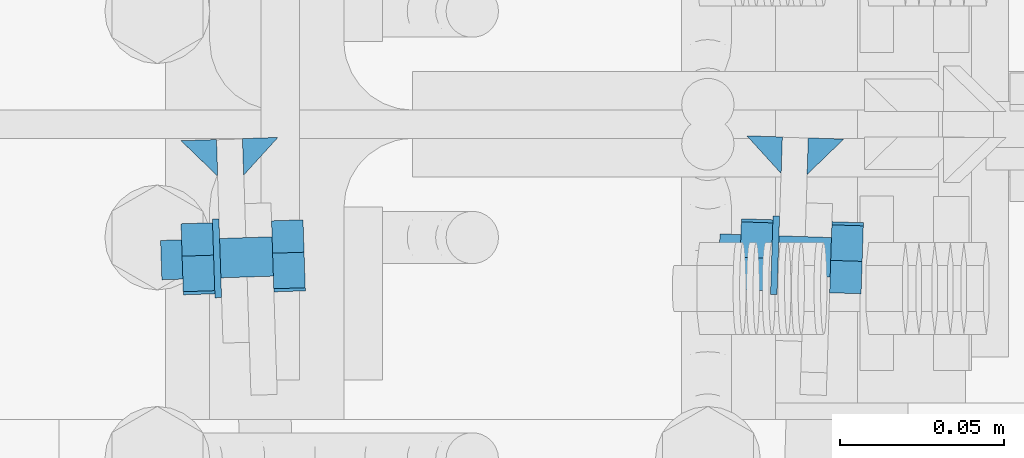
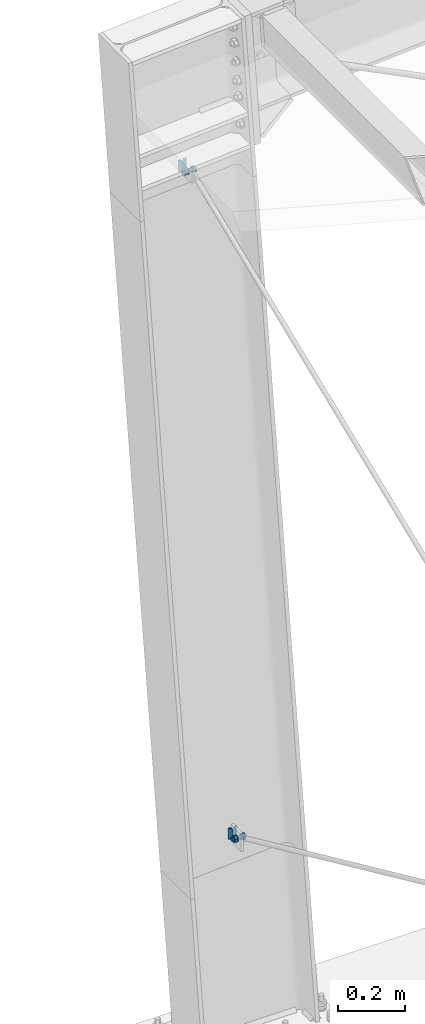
# One storey, part 64 of 72: 8 mechanical fasteners, 4 fasteners.
"""IFC4 building model written with IfcOpenShell, lengths in metres."""

from ifc_helpers import new_model, si_unit, frame, origin_with_axes, place, context, project, spatial, polyline, outline, extrude, type_object, element, save


model = new_model("IFC4")

# Units and contexts
model_context = context("Model", 3, precision=1e-05, world=origin_with_axes())
ifc_project = project(units=[si_unit("LENGTHUNIT", "METRE"), si_unit("AREAUNIT", "SQUARE_METRE"), si_unit("VOLUMEUNIT", "CUBIC_METRE"), si_unit("MASSUNIT", "GRAM", prefix="KILO"), si_unit("TIMEUNIT", "SECOND"), si_unit("PLANEANGLEUNIT", "RADIAN"), si_unit("SOLIDANGLEUNIT", "STERADIAN"), si_unit("THERMODYNAMICTEMPERATUREUNIT", "DEGREE_CELSIUS")], contexts=[model_context])

# Site, building, storey
placement_1 = place(None, origin_with_axes())
site = spatial("IfcSite", under=ifc_project, at=placement_1, Name="Italia", CompositionType="ELEMENT")
building = spatial("IfcBuilding", under=site, at=placement_1, Name="Pensilina", CompositionType="ELEMENT")
storey = spatial("IfcBuildingStorey", under=building, at=placement_1, Name="Storey 0", CompositionType="ELEMENT", Elevation=0.0)

# Mechanical fasteners
mechanical_fastener_type_1 = type_object("IfcMechanicalFastenerType", Name="Collegamento -200_-204", PredefinedType="BOLT")
placement_2 = place(placement_1, origin_with_axes())
mechanical_fastener_1_placement = place(placement_2, origin_with_axes())
element("IfcMechanicalFastener", 1, at=mechanical_fastener_1_placement, inside=storey, type_object=mechanical_fastener_type_1, Name="Collegamento -200_-204", NominalDiameter=0.0119995, context=model_context, shape_type="SweptSolid", body=[
    extrude(outline(polyline([(0.0, 0.0, 0.0), (0.0108356, -0.00515747, 0.0), (0.0207195, 0.00164735, 0.0), (0.0197697, 0.0136096, 0.0), (0.00893402, 0.0187671, 0.0), (-0.00094986, 0.0119622, 0.0), (0.0, 0.0, 0.0)])), frame((0.893182, 21.0696, 0.818424), z_axis=(0.99946254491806, -0.032782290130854, 0.0), x_axis=(0.032782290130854, 0.99946254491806, 0.0)), (0.0, 0.0, 1.0), 0.00960008),
])
mechanical_fastener_type_2 = type_object("IfcMechanicalFastenerType", Name="Collegamento -200_-204", PredefinedType="BOLT")
mechanical_fastener_2_placement = place(placement_2, origin_with_axes())
element("IfcMechanicalFastener", 2, at=mechanical_fastener_2_placement, inside=storey, type_object=mechanical_fastener_type_2, Name="Collegamento -200_-204", NominalDiameter=0.012, context=model_context, shape_type="SweptSolid", body=[
    extrude(outline(polyline([(0.0, 0.0, 0.0), (-0.000204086, -0.00155294, 0.0), (-0.000802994, -0.00300002, 0.0), (-0.00175667, -0.00424266, 0.0), (-0.00299835, -0.00519615, 0.0), (-0.00444603, -0.00579554, 0.0), (-0.00599861, -0.00599998, 0.0), (-0.0075531, -0.00579554, 0.0), (-0.00899887, -0.00519615, 0.0), (-0.0102406, -0.00424266, 0.0), (-0.0111961, -0.00300002, 0.0), (-0.011795, -0.00155294, 0.0), (-0.0119991, 0.0, 0.0), (-0.011795, 0.00155294, 0.0), (-0.0111961, 0.00300002, 0.0), (-0.0102406, 0.00424266, 0.0), (-0.00899887, 0.00519615, 0.0), (-0.0075531, 0.00579554, 0.0), (-0.00599861, 0.00599998, 0.0), (-0.00444603, 0.00579554, 0.0), (-0.00299835, 0.00519615, 0.0), (-0.00175667, 0.00424266, 0.0), (-0.000802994, 0.00300002, 0.0), (-0.000204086, 0.00155294, 0.0), (0.0, 0.0, 0.0)])), frame((0.859719, 21.0866, 0.825229), z_axis=(0.999466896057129, -0.032649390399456, 0.0), x_axis=(0.032649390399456, 0.999466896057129, 0.0)), (0.0, 0.0, 1.0), 0.0339999),
])
mechanical_fastener_type_3 = type_object("IfcMechanicalFastenerType", Name="Collegamento -200_-204", PredefinedType="BOLT")
mechanical_fastener_3_placement = place(placement_2, origin_with_axes())
element("IfcMechanicalFastener", 3, at=mechanical_fastener_3_placement, inside=storey, type_object=mechanical_fastener_type_3, Name="Collegamento -200_-204", NominalDiameter=0.0119995, context=model_context, shape_type="SweptSolid", body=[
    extrude(outline(polyline([(0.0, 0.0, 0.0), (0.0108356, -0.00515747, 0.0), (0.0207195, 0.00164735, 0.0), (0.0197697, 0.0136096, 0.0), (0.00893402, 0.0187671, 0.0), (-0.00094986, 0.0119622, 0.0), (0.0, 0.0, 0.0)])), frame((0.865596, 21.0705, 0.818424), z_axis=(0.999468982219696, -0.032584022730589, 0.0), x_axis=(0.032584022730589, 0.999468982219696, 0.0)), (0.0, 0.0, 1.0), 0.00959996),
])
mechanical_fastener_type_4 = type_object("IfcMechanicalFastenerType", Name="Collegamento -200_-204", PredefinedType="BOLT")
mechanical_fastener_4_placement = place(placement_2, origin_with_axes())
element("IfcMechanicalFastener", 4, at=mechanical_fastener_4_placement, inside=storey, type_object=mechanical_fastener_type_4, Name="Collegamento -200_-204", NominalDiameter=0.024, context=model_context, shape_type="SweptSolid", body=[
    extrude(outline(polyline([(0.0, 0.0, 0.0), (-0.000408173, -0.00310582, 0.0), (-0.00160789, -0.00599998, 0.0), (-0.00351524, -0.00848526, 0.0), (-0.00600052, -0.0103923, 0.0), (-0.00889587, -0.0115911, 0.0), (-0.0119991, -0.012, 0.0), (-0.0151043, -0.0115911, 0.0), (-0.0179996, -0.0103923, 0.0), (-0.0204849, -0.00848526, 0.0), (-0.0223923, -0.00599998, 0.0), (-0.023592, -0.00310582, 0.0), (-0.0240002, 0.0, 0.0), (-0.023592, 0.00310582, 0.0), (-0.0223923, 0.00599998, 0.0), (-0.0204849, 0.00848526, 0.0), (-0.0179996, 0.0103923, 0.0), (-0.0151043, 0.0115911, 0.0), (-0.0119991, 0.012, 0.0), (-0.00889587, 0.0115911, 0.0), (-0.00600052, 0.0103923, 0.0), (-0.00351524, 0.00848526, 0.0), (-0.00160789, 0.00599998, 0.0), (-0.000408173, 0.00310582, 0.0), (0.0, 0.0, 0.0)])), frame((0.875904, 21.0921, 0.825229), z_axis=(0.999474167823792, -0.032425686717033, 0.0), x_axis=(0.032425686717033, 0.999474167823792, 0.0)), (0.0, 0.0, 1.0), 0.00199995),
])

# Fasteners
fastener_type_1 = type_object("IfcFastenerType", Name="Collegamento -200_-204", PredefinedType="WELD")
fastener_1_placement = place(placement_2, origin_with_axes())
element("IfcFastener", 5, at=fastener_1_placement, inside=storey, type_object=fastener_type_1, Name="Collegamento -200_-204", context=model_context, shape_type="SweptSolid", body=[
    extrude(outline(polyline([(0.0, 0.0, 0.0), (-0.0115223, 0.0104669, 0.0), (-0.000354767, 0.0108324, 0.0), (0.0, 0.0, 0.0)])), frame((0.867914, 21.1165, 0.843087), z_axis=(0.0, 0.0, -1.0), x_axis=(0.0, 1.0, 0.0)), (0.0, 0.0, 1.0), 0.0400993),
])
fastener_type_2 = type_object("IfcFastenerType", Name="Collegamento -200_-204", PredefinedType="WELD")
fastener_2_placement = place(placement_2, origin_with_axes())
element("IfcFastener", 6, at=fastener_2_placement, inside=storey, type_object=fastener_type_2, Name="Collegamento -200_-204", context=model_context, shape_type="SweptSolid", body=[
    extrude(outline(polyline([(0.0, 0.0, 0.0), (-0.0108128, 0.0111977, 0.0), (0.000354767, 0.0108324, 0.0), (0.0, 0.0, 0.0)])), frame((0.897474, 21.1155, 0.802988), z_axis=(0.0, 0.0, 1.0), x_axis=(0.0, 1.0, 0.0)), (0.0, 0.0, 1.0), 0.0400992),
])

# Mechanical fasteners
mechanical_fastener_type_5 = type_object("IfcMechanicalFastenerType", Name="Collegamento -205_-199", PredefinedType="BOLT")
mechanical_fastener_5_placement = place(placement_2, origin_with_axes())
element("IfcMechanicalFastener", 7, at=mechanical_fastener_5_placement, inside=storey, type_object=mechanical_fastener_type_5, Name="Collegamento -205_-199", NominalDiameter=0.0119994, context=model_context, shape_type="SweptSolid", body=[
    extrude(outline(polyline([(0.0, 0.0, 0.0), (0.0108356, 0.00515747, 0.0), (0.0117855, 0.0171199, 0.0), (0.00190163, 0.0239246, 0.0), (-0.00893402, 0.0187671, 0.0), (-0.00988388, 0.00680494, 0.0), (0.0, 0.0, 0.0)])), frame((0.723424, 21.0788, 3.28936), z_axis=(0.999462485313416, 0.03278249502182, 0.0), x_axis=(-0.03278249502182, 0.999462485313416, 0.0)), (0.0, 0.0, 1.0), 0.00960002),
])
mechanical_fastener_type_6 = type_object("IfcMechanicalFastenerType", Name="Collegamento -205_-199", PredefinedType="BOLT")
mechanical_fastener_6_placement = place(placement_2, origin_with_axes())
element("IfcMechanicalFastener", 8, at=mechanical_fastener_6_placement, inside=storey, type_object=mechanical_fastener_type_6, Name="Collegamento -205_-199", NominalDiameter=0.012, context=model_context, shape_type="SweptSolid", body=[
    extrude(outline(polyline([(0.0, 0.0, 0.0), (-0.000204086, -0.00155282, 0.0), (-0.000802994, -0.00300002, 0.0), (-0.00175858, -0.00424266, 0.0), (-0.00300026, -0.00519609, 0.0), (-0.00444794, -0.00579548, 0.0), (-0.00600052, -0.00600004, 0.0), (-0.0075531, -0.00579548, 0.0), (-0.00900078, -0.00519609, 0.0), (-0.0102425, -0.00424266, 0.0), (-0.0111961, -0.00300002, 0.0), (-0.011797, -0.00155282, 0.0), (-0.012001, 0.0, 0.0), (-0.011797, 0.00155282, 0.0), (-0.0111961, 0.00300002, 0.0), (-0.0102425, 0.00424266, 0.0), (-0.00900078, 0.00519609, 0.0), (-0.0075531, 0.00579548, 0.0), (-0.00600052, 0.00600004, 0.0), (-0.00444794, 0.00579548, 0.0), (-0.00300026, 0.00519609, 0.0), (-0.00175858, 0.00424266, 0.0), (-0.000802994, 0.00300002, 0.0), (-0.000204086, 0.00155282, 0.0), (0.0, 0.0, 0.0)])), frame((0.689215, 21.0846, 3.30132), z_axis=(0.999463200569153, 0.032761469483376, 0.0), x_axis=(-0.032761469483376, 0.999463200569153, 0.0)), (0.0, 0.0, 1.0), 0.0340001),
])
mechanical_fastener_type_7 = type_object("IfcMechanicalFastenerType", Name="Collegamento -205_-199", PredefinedType="BOLT")
mechanical_fastener_7_placement = place(placement_2, origin_with_axes())
element("IfcMechanicalFastener", 9, at=mechanical_fastener_7_placement, inside=storey, type_object=mechanical_fastener_type_7, Name="Collegamento -205_-199", NominalDiameter=0.0119994, context=model_context, shape_type="SweptSolid", body=[
    extrude(outline(polyline([(0.0, 0.0, 0.0), (0.0108356, 0.00515747, 0.0), (0.0117855, 0.0171199, 0.0), (0.00190163, 0.0239246, 0.0), (-0.00893402, 0.0187671, 0.0), (-0.00988388, 0.00680494, 0.0), (0.0, 0.0, 0.0)])), frame((0.695839, 21.0779, 3.28936), z_axis=(0.99946254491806, 0.032782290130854, 0.0), x_axis=(-0.032782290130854, 0.99946254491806, 0.0)), (0.0, 0.0, 1.0), 0.00960008),
])
mechanical_fastener_type_8 = type_object("IfcMechanicalFastenerType", Name="Collegamento -205_-199", PredefinedType="BOLT")
mechanical_fastener_8_placement = place(placement_2, origin_with_axes())
element("IfcMechanicalFastener", 10, at=mechanical_fastener_8_placement, inside=storey, type_object=mechanical_fastener_type_8, Name="Collegamento -205_-199", NominalDiameter=0.024, context=model_context, shape_type="SweptSolid", body=[
    extrude(outline(polyline([(0.0, 0.0, 0.0), (-0.000408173, -0.00310588, 0.0), (-0.00160599, -0.00600004, 0.0), (-0.00351524, -0.00848532, 0.0), (-0.00599861, -0.0103922, 0.0), (-0.00889397, -0.0115912, 0.0), (-0.0119991, -0.0120001, 0.0), (-0.0151043, -0.0115912, 0.0), (-0.0179996, -0.0103922, 0.0), (-0.0204849, -0.00848532, 0.0), (-0.0223923, -0.00600004, 0.0), (-0.023592, -0.00310588, 0.0), (-0.0240002, 0.0, 0.0), (-0.023592, 0.00310588, 0.0), (-0.0223923, 0.00600004, 0.0), (-0.0204849, 0.00848532, 0.0), (-0.0179996, 0.0103922, 0.0), (-0.0151043, 0.0115912, 0.0), (-0.0119991, 0.0120001, 0.0), (-0.00889397, 0.0115912, 0.0), (-0.00599861, 0.0103922, 0.0), (-0.00351524, 0.00848532, 0.0), (-0.00160599, 0.00600004, 0.0), (-0.000408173, 0.00310588, 0.0), (0.0, 0.0, 0.0)])), frame((0.705002, 21.0911, 3.30132), z_axis=(0.99944281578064, 0.033378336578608, 0.0), x_axis=(-0.033378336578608, 0.99944281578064, 0.0)), (0.0, 0.0, 1.0), 0.00200002),
])

# Fasteners
fastener_type_3 = type_object("IfcFastenerType", Name="Collegamento -205_-199", PredefinedType="WELD")
fastener_3_placement = place(placement_2, origin_with_axes())
element("IfcFastener", 11, at=fastener_3_placement, inside=storey, type_object=fastener_type_3, Name="Collegamento -205_-199", context=model_context, shape_type="SweptSolid", body=[
    extrude(outline(polyline([(0.0, 0.0, 0.0), (-0.0108147, 0.0111977, 0.0), (0.000352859, 0.0108324, 0.0), (0.0, 0.0, 0.0)])), frame((0.695437, 21.115, 3.32257), z_axis=(-2.972740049e-06, -4.7563840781e-05, -1.0), x_axis=(0.0, 1.0, 0.0)), (0.0, 0.0, 1.0), 0.0401008),
])
fastener_type_4 = type_object("IfcFastenerType", Name="Collegamento -205_-199", PredefinedType="WELD")
fastener_4_placement = place(placement_2, origin_with_axes())
element("IfcFastener", 12, at=fastener_4_placement, inside=storey, type_object=fastener_type_4, Name="Collegamento -205_-199", context=model_context, shape_type="SweptSolid", body=[
    extrude(outline(polyline([(0.0, 0.0, 0.0), (-0.0115223, 0.010467, 0.0), (-0.000354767, 0.0108324, 0.0), (0.0, 0.0, 0.0)])), frame((0.724997, 21.116, 3.28247), z_axis=(2.972740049e-06, 0.0, 1.0), x_axis=(0.0, 1.0, 0.0)), (0.0, 0.0, 1.0), 0.0401008),
])

save(model, "model.ifc")
